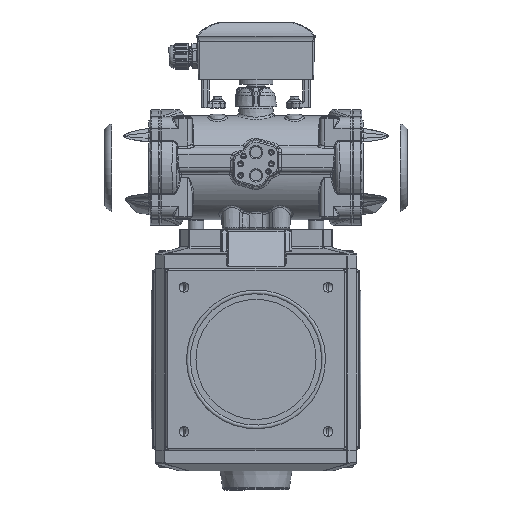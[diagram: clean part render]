
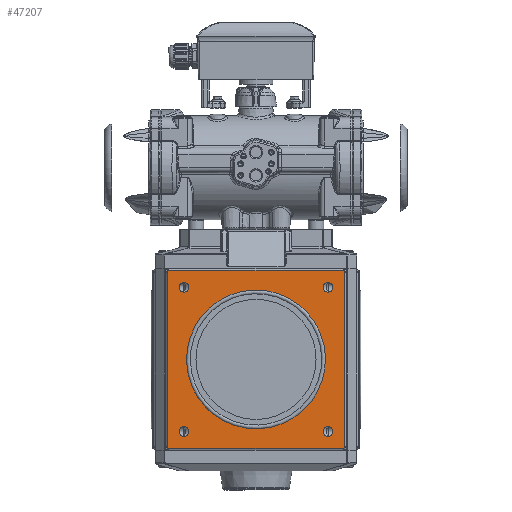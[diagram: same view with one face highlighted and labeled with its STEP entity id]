
A CAD part, left-side view. The second image highlights one B-rep face of the part: STEP entity #47207.
In plain terms, the highlighted planar face has unit normal (-1, 0, 0).
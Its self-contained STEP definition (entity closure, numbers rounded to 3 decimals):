
#535=FACE_BOUND('',#14560,.T.);
#536=FACE_BOUND('',#14561,.T.);
#537=FACE_BOUND('',#14562,.T.);
#538=FACE_BOUND('',#14563,.T.);
#539=FACE_BOUND('',#14564,.T.);
#1506=PLANE('',#50600);
#2710=LINE('',#79770,#5426);
#2711=LINE('',#79774,#5427);
#2712=LINE('',#79778,#5428);
#2713=LINE('',#79782,#5429);
#5426=VECTOR('',#57523,10.);
#5427=VECTOR('',#57526,10.);
#5428=VECTOR('',#57529,10.);
#5429=VECTOR('',#57532,10.);
#7602=CIRCLE('',#49693,72.213);
#8072=CIRCLE('',#50601,2.);
#8073=CIRCLE('',#50602,2.);
#8074=CIRCLE('',#50603,2.);
#8075=CIRCLE('',#50604,2.);
#8076=CIRCLE('',#50605,5.053);
#8077=CIRCLE('',#50606,5.053);
#8078=CIRCLE('',#50607,5.053);
#8079=CIRCLE('',#50608,5.053);
#11611=FACE_OUTER_BOUND('',#14559,.T.);
#14559=EDGE_LOOP('',(#32278,#32279,#32280,#32281,#32282,#32283,#32284,#32285));
#14560=EDGE_LOOP('',(#32286));
#14561=EDGE_LOOP('',(#32287));
#14562=EDGE_LOOP('',(#32288));
#14563=EDGE_LOOP('',(#32289));
#14564=EDGE_LOOP('',(#32290));
#18508=VERTEX_POINT('',#72663);
#19269=VERTEX_POINT('',#79768);
#19270=VERTEX_POINT('',#79769);
#19271=VERTEX_POINT('',#79771);
#19272=VERTEX_POINT('',#79773);
#19273=VERTEX_POINT('',#79775);
#19274=VERTEX_POINT('',#79777);
#19275=VERTEX_POINT('',#79779);
#19276=VERTEX_POINT('',#79781);
#19277=VERTEX_POINT('',#79784);
#19278=VERTEX_POINT('',#79786);
#19279=VERTEX_POINT('',#79788);
#19280=VERTEX_POINT('',#79790);
#22757=EDGE_CURVE('',#18508,#18508,#7602,.T.);
#23988=EDGE_CURVE('',#19269,#19270,#2710,.T.);
#23989=EDGE_CURVE('',#19271,#19269,#8072,.T.);
#23990=EDGE_CURVE('',#19272,#19271,#2711,.T.);
#23991=EDGE_CURVE('',#19273,#19272,#8073,.T.);
#23992=EDGE_CURVE('',#19274,#19273,#2712,.T.);
#23993=EDGE_CURVE('',#19275,#19274,#8074,.T.);
#23994=EDGE_CURVE('',#19276,#19275,#2713,.T.);
#23995=EDGE_CURVE('',#19270,#19276,#8075,.T.);
#23996=EDGE_CURVE('',#19277,#19277,#8076,.T.);
#23997=EDGE_CURVE('',#19278,#19278,#8077,.T.);
#23998=EDGE_CURVE('',#19279,#19279,#8078,.T.);
#23999=EDGE_CURVE('',#19280,#19280,#8079,.T.);
#32278=ORIENTED_EDGE('',*,*,#23988,.F.);
#32279=ORIENTED_EDGE('',*,*,#23989,.F.);
#32280=ORIENTED_EDGE('',*,*,#23990,.F.);
#32281=ORIENTED_EDGE('',*,*,#23991,.F.);
#32282=ORIENTED_EDGE('',*,*,#23992,.F.);
#32283=ORIENTED_EDGE('',*,*,#23993,.F.);
#32284=ORIENTED_EDGE('',*,*,#23994,.F.);
#32285=ORIENTED_EDGE('',*,*,#23995,.F.);
#32286=ORIENTED_EDGE('',*,*,#22757,.T.);
#32287=ORIENTED_EDGE('',*,*,#23996,.T.);
#32288=ORIENTED_EDGE('',*,*,#23997,.T.);
#32289=ORIENTED_EDGE('',*,*,#23998,.T.);
#32290=ORIENTED_EDGE('',*,*,#23999,.T.);
#47207=ADVANCED_FACE('',(#11611,#535,#536,#537,#538,#539),#1506,.T.);
#49693=AXIS2_PLACEMENT_3D('',#72665,#55191,#55192);
#50600=AXIS2_PLACEMENT_3D('',#79767,#57521,#57522);
#50601=AXIS2_PLACEMENT_3D('',#79772,#57524,#57525);
#50602=AXIS2_PLACEMENT_3D('',#79776,#57527,#57528);
#50603=AXIS2_PLACEMENT_3D('',#79780,#57530,#57531);
#50604=AXIS2_PLACEMENT_3D('',#79783,#57533,#57534);
#50605=AXIS2_PLACEMENT_3D('',#79785,#57535,#57536);
#50606=AXIS2_PLACEMENT_3D('',#79787,#57537,#57538);
#50607=AXIS2_PLACEMENT_3D('',#79789,#57539,#57540);
#50608=AXIS2_PLACEMENT_3D('',#79791,#57541,#57542);
#55191=DIRECTION('center_axis',(1.,0.,0.));
#55192=DIRECTION('ref_axis',(0.,0.,1.));
#57521=DIRECTION('center_axis',(-1.,0.,0.));
#57522=DIRECTION('ref_axis',(0.,0.,
-1.));
#57523=DIRECTION('',(0.,0.,-1.));
#57524=DIRECTION('center_axis',(1.,0.,0.));
#57525=DIRECTION('ref_axis',(0.,-0.707,0.707));
#57526=DIRECTION('',(0.,-1.,0.));
#57527=DIRECTION('center_axis',(1.,0.,0.));
#57528=DIRECTION('ref_axis',(0.,0.707,0.707));
#57529=DIRECTION('',(0.,0.,1.));
#57530=DIRECTION('center_axis',(1.,0.,0.));
#57531=DIRECTION('ref_axis',(0.,0.707,-0.707));
#57532=DIRECTION('',(0.,1.,0.));
#57533=DIRECTION('center_axis',(1.,0.,0.));
#57534=DIRECTION('ref_axis',(0.,-0.707,-0.707));
#57535=DIRECTION('center_axis',(1.,0.,0.));
#57536=DIRECTION('ref_axis',(0.,0.,
-1.));
#57537=DIRECTION('center_axis',(1.,0.,0.));
#57538=DIRECTION('ref_axis',(0.,0.,
-1.));
#57539=DIRECTION('center_axis',(1.,0.,0.));
#57540=DIRECTION('ref_axis',(0.,0.,
-1.));
#57541=DIRECTION('center_axis',(1.,0.,0.));
#57542=DIRECTION('ref_axis',(0.,0.,
-1.));
#72663=CARTESIAN_POINT('',(-108.,-61.183,-20.379));
#72665=CARTESIAN_POINT('Origin',(-108.,0.,-58.737));
#79767=CARTESIAN_POINT('Origin',(-108.,0.,-58.737));
#79768=CARTESIAN_POINT('',(-108.,-92.5,31.763));
#79769=CARTESIAN_POINT('',(-108.,-92.5,-149.237));
#79770=CARTESIAN_POINT('',(-108.,-92.5,-104.987));
#79771=CARTESIAN_POINT('',(-108.,-90.5,33.763));
#79772=CARTESIAN_POINT('Origin',(-108.,-90.5,31.763));
#79773=CARTESIAN_POINT('',(-108.,90.5,33.763));
#79774=CARTESIAN_POINT('',(-108.,-46.25,33.763));
#79775=CARTESIAN_POINT('',(-108.,92.5,31.763));
#79776=CARTESIAN_POINT('Origin',(-108.,90.5,31.763));
#79777=CARTESIAN_POINT('',(-108.,92.5,-149.237));
#79778=CARTESIAN_POINT('',(-108.,92.5,-12.487));
#79779=CARTESIAN_POINT('',(-108.,90.5,-151.237));
#79780=CARTESIAN_POINT('Origin',(-108.,90.5,-149.237));
#79781=CARTESIAN_POINT('',(-108.,-90.5,-151.237));
#79782=CARTESIAN_POINT('',(-108.,46.25,-151.237));
#79783=CARTESIAN_POINT('Origin',(-108.,-90.5,-149.237));
#79784=CARTESIAN_POINT('',(-108.,-75.,-128.684));
#79785=CARTESIAN_POINT('Origin',(-108.,-75.,-133.737));
#79786=CARTESIAN_POINT('',(-108.,75.,21.316));
#79787=CARTESIAN_POINT('Origin',(-108.,75.,16.263));
#79788=CARTESIAN_POINT('',(-108.,75.,-128.684));
#79789=CARTESIAN_POINT('Origin',(-108.,75.,-133.737));
#79790=CARTESIAN_POINT('',(-108.,-75.,21.316));
#79791=CARTESIAN_POINT('Origin',(-108.,-75.,16.263));
